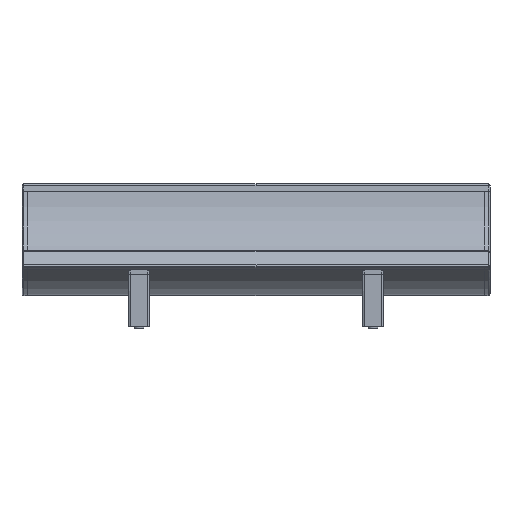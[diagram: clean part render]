
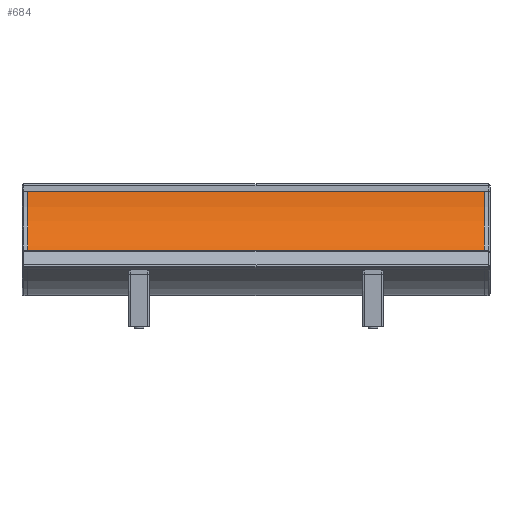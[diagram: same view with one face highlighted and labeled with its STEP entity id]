
A CAD part, front view. The second image highlights one B-rep face of the part: STEP entity #684.
In plain terms, the highlighted cylindrical face has radius 470 mm (diameter 940 mm), a partial arc.
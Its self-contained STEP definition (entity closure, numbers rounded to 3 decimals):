
#74=(
BOUNDED_CURVE()
B_SPLINE_CURVE(1,(#16149,#16150,#16151),.UNSPECIFIED.,.F.,.F.)
B_SPLINE_CURVE_WITH_KNOTS((2,1,2),(0.,1170.,2340.),.UNSPECIFIED.)
CURVE()
GEOMETRIC_REPRESENTATION_ITEM()
RATIONAL_B_SPLINE_CURVE((1.,1.,1.))
REPRESENTATION_ITEM('')
);
#684=ADVANCED_FACE('',(#1220),#7802,.F.);
#1220=FACE_OUTER_BOUND('',#1756,.T.);
#1756=EDGE_LOOP('',(#3578,#3579,#3580,#3581));
#3578=ORIENTED_EDGE('',*,*,#4930,.T.);
#3579=ORIENTED_EDGE('',*,*,#4924,.T.);
#3580=ORIENTED_EDGE('',*,*,#4927,.T.);
#3581=ORIENTED_EDGE('',*,*,#4923,.F.);
#4923=EDGE_CURVE('',#7211,#7210,#5489,.T.);
#4924=EDGE_CURVE('',#7207,#7206,#5490,.T.);
#4927=EDGE_CURVE('',#7206,#7210,#6519,.T.);
#4930=EDGE_CURVE('',#7211,#7207,#74,.T.);
#5489=TRIMMED_CURVE($,#5901,(#16129),(#16130),.T.,.CARTESIAN.);
#5490=TRIMMED_CURVE($,#5902,(#16132),(#16133),.T.,.CARTESIAN.);
#5901=CIRCLE('',#8563,470.);
#5902=CIRCLE('',#8564,470.);
#6519=B_SPLINE_CURVE_WITH_KNOTS('',1,(#16140,#16141,#16142),
 .UNSPECIFIED.,.F.,.F.,(2,1,2),(0.,1170.,2340.),.UNSPECIFIED.);
#7206=VERTEX_POINT('',#16113);
#7207=VERTEX_POINT('',#16114);
#7210=VERTEX_POINT('',#16117);
#7211=VERTEX_POINT('',#16118);
#7802=CYLINDRICAL_SURFACE('',#8561,470.);
#8561=AXIS2_PLACEMENT_3D('',#16110,#9773,$);
#8563=AXIS2_PLACEMENT_3D($,#16128,#9775,#9776);
#8564=AXIS2_PLACEMENT_3D($,#16131,#9777,#9778);
#9773=DIRECTION('',(1.,0.,0.));
#9775=DIRECTION('',(1.,0.,0.));
#9776=DIRECTION('',(0.,-0.637,-0.771));
#9777=DIRECTION('',(1.,0.,0.));
#9778=DIRECTION('',(0.,-0.637,-0.771));
#16110=CARTESIAN_POINT('',(0.,305.778,735.));
#16113=CARTESIAN_POINT('',(1170.,773.668,690.521));
#16114=CARTESIAN_POINT('',(1170.,6.37,372.708));
#16117=CARTESIAN_POINT('',(-1170.,773.668,690.521));
#16118=CARTESIAN_POINT('',(-1170.,6.37,372.708));
#16128=CARTESIAN_POINT('',(-1170.,305.778,735.));
#16129=CARTESIAN_POINT('',(-1170.,6.37,372.708));
#16130=CARTESIAN_POINT('',(-1170.,773.668,690.521));
#16131=CARTESIAN_POINT('',(1170.,305.778,735.));
#16132=CARTESIAN_POINT('',(1170.,6.37,372.708));
#16133=CARTESIAN_POINT('',(1170.,773.668,690.521));
#16140=CARTESIAN_POINT('',(1170.,773.668,690.521));
#16141=CARTESIAN_POINT('',(0.,773.668,690.521));
#16142=CARTESIAN_POINT('',(-1170.,773.668,690.521));
#16149=CARTESIAN_POINT('',(-1170.,6.37,372.708));
#16150=CARTESIAN_POINT('',(0.,6.37,372.708));
#16151=CARTESIAN_POINT('',(1170.,6.37,372.708));
